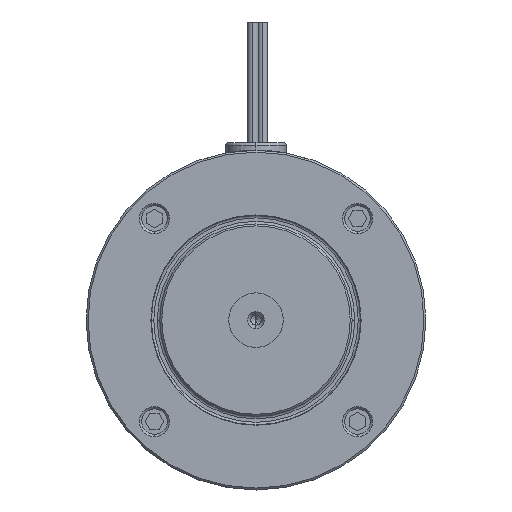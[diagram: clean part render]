
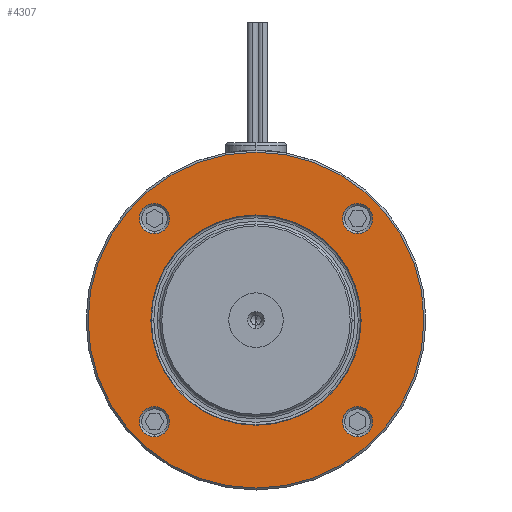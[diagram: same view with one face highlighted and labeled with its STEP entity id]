
A CAD part, left-side view. The second image highlights one B-rep face of the part: STEP entity #4307.
In plain terms, the highlighted planar face has unit normal (-1, 0, 0).
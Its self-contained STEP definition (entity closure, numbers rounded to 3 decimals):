
#24 = CIRCLE ( 'NONE', #248, 2.35 ) ;
#27 = DIRECTION ( 'NONE',  ( 0., -1., 0. ) ) ;
#28 = DIRECTION ( 'NONE',  ( 1., 0., 0. ) ) ;
#29 = CARTESIAN_POINT ( 'NONE',  ( -112., -15.839, -15.839 ) ) ;
#34 = DIRECTION ( 'NONE',  ( 0., 1., 0. ) ) ;
#35 = AXIS2_PLACEMENT_3D ( 'NONE', #29, #28, #27 ) ;
#38 = CIRCLE ( 'NONE', #35, 2.35 ) ;
#40 = FACE_BOUND ( 'NONE', #4295, .T. ) ;
#41 = AXIS2_PLACEMENT_3D ( 'NONE', #68, #67, #34 ) ;
#46 = FACE_BOUND ( 'NONE', #4293, .T. ) ;
#47 = FACE_OUTER_BOUND ( 'NONE', #4309, .T. ) ;
#48 = DIRECTION ( 'NONE',  ( 0., -1., 0. ) ) ;
#49 = DIRECTION ( 'NONE',  ( 1., 0., 0. ) ) ;
#50 = CARTESIAN_POINT ( 'NONE',  ( -112., 15.839, 15.839 ) ) ;
#51 = AXIS2_PLACEMENT_3D ( 'NONE', #50, #49, #48 ) ;
#52 = CIRCLE ( 'NONE', #51, 2.35 ) ;
#53 = PLANE ( 'NONE',  #41 ) ;
#54 = FACE_BOUND ( 'NONE', #4315, .T. ) ;
#55 = DIRECTION ( 'NONE',  ( 0., 1., 0. ) ) ;
#56 = FACE_BOUND ( 'NONE', #4291, .T. ) ;
#57 = FACE_BOUND ( 'NONE', #4282, .T. ) ;
#58 = DIRECTION ( 'NONE',  ( 1., 0., 0. ) ) ;
#63 = CARTESIAN_POINT ( 'NONE',  ( -112., 0., 0. ) ) ;
#64 = DIRECTION ( 'NONE',  ( 0., 1., 0. ) ) ;
#65 = DIRECTION ( 'NONE',  ( 1., 0., 0. ) ) ;
#66 = CARTESIAN_POINT ( 'NONE',  ( -112., 0., 0. ) ) ;
#67 = DIRECTION ( 'NONE',  ( -1., 0., 0. ) ) ;
#68 = CARTESIAN_POINT ( 'NONE',  ( -112., 16.4, 0. ) ) ;
#74 = CIRCLE ( 'NONE', #92, 26.2 ) ;
#81 = CIRCLE ( 'NONE', #87, 16.4 ) ;
#87 = AXIS2_PLACEMENT_3D ( 'NONE', #66, #65, #64 ) ;
#92 = AXIS2_PLACEMENT_3D ( 'NONE', #63, #58, #55 ) ;
#200 = DIRECTION ( 'NONE',  ( 0., -1., 0. ) ) ;
#201 = DIRECTION ( 'NONE',  ( 1., 0., 0. ) ) ;
#202 = CARTESIAN_POINT ( 'NONE',  ( -112., -15.839, 15.839 ) ) ;
#207 = AXIS2_PLACEMENT_3D ( 'NONE', #202, #201, #200 ) ;
#213 = CIRCLE ( 'NONE', #207, 2.35 ) ;
#232 = DIRECTION ( 'NONE',  ( 0., -1., 0. ) ) ;
#233 = DIRECTION ( 'NONE',  ( 1., 0., 0. ) ) ;
#238 = CARTESIAN_POINT ( 'NONE',  ( -112., 15.839, -15.839 ) ) ;
#248 = AXIS2_PLACEMENT_3D ( 'NONE', #238, #233, #232 ) ;
#2899 = DIRECTION ( 'NONE',  ( 0., -1., 0. ) ) ;
#2900 = DIRECTION ( 'NONE',  ( 1., 0., 0. ) ) ;
#2901 = AXIS2_PLACEMENT_3D ( 'NONE', #2939, #2900, #2899 ) ;
#2905 = AXIS2_PLACEMENT_3D ( 'NONE', #2910, #2912, #3006 ) ;
#2910 = CARTESIAN_POINT ( 'NONE',  ( -112., 15.839, 15.839 ) ) ;
#2912 = DIRECTION ( 'NONE',  ( 1., 0., 0. ) ) ;
#2930 = CIRCLE ( 'NONE', #2901, 2.35 ) ;
#2931 = CARTESIAN_POINT ( 'NONE',  ( -112., -15.839, -13.489 ) ) ;
#2939 = CARTESIAN_POINT ( 'NONE',  ( -112., 15.839, -15.839 ) ) ;
#2974 = CARTESIAN_POINT ( 'NONE',  ( -112., 15.839, -13.489 ) ) ;
#3006 = DIRECTION ( 'NONE',  ( 0., -1., 0. ) ) ;
#3009 = CIRCLE ( 'NONE', #2905, 2.35 ) ;
#3243 = CARTESIAN_POINT ( 'NONE',  ( -112., -15.839, -18.189 ) ) ;
#3245 = CIRCLE ( 'NONE', #3259, 2.35 ) ;
#3255 = CARTESIAN_POINT ( 'NONE',  ( -112., 15.839, 18.189 ) ) ;
#3256 = DIRECTION ( 'NONE',  ( 0., -1., 0. ) ) ;
#3257 = DIRECTION ( 'NONE',  ( 1., 0., 0. ) ) ;
#3258 = CARTESIAN_POINT ( 'NONE',  ( -112., -15.839, -15.839 ) ) ;
#3259 = AXIS2_PLACEMENT_3D ( 'NONE', #3258, #3257, #3256 ) ;
#3260 = CARTESIAN_POINT ( 'NONE',  ( -112., 15.839, 13.489 ) ) ;
#3460 = CARTESIAN_POINT ( 'NONE',  ( -112., -16.4, 0. ) ) ;
#3524 = CARTESIAN_POINT ( 'NONE',  ( -112., 15.839, -18.189 ) ) ;
#3926 = DIRECTION ( 'NONE',  ( 0., 1., 0. ) ) ;
#3932 = CARTESIAN_POINT ( 'NONE',  ( -112., -26.2, 0. ) ) ;
#3934 = DIRECTION ( 'NONE',  ( 1., 0., 0. ) ) ;
#3938 = CARTESIAN_POINT ( 'NONE',  ( -112., 0., 0. ) ) ;
#3942 = AXIS2_PLACEMENT_3D ( 'NONE', #3938, #3934, #3926 ) ;
#3949 = CARTESIAN_POINT ( 'NONE',  ( -112., 26.2, 0. ) ) ;
#3994 = CIRCLE ( 'NONE', #3942, 26.2 ) ;
#4010 = CARTESIAN_POINT ( 'NONE',  ( -112., 16.4, 0. ) ) ;
#4012 = DIRECTION ( 'NONE',  ( 0., 1., 0. ) ) ;
#4021 = DIRECTION ( 'NONE',  ( 1., 0., 0. ) ) ;
#4024 = AXIS2_PLACEMENT_3D ( 'NONE', #4060, #4021, #4012 ) ;
#4033 = CIRCLE ( 'NONE', #4024, 16.4 ) ;
#4060 = CARTESIAN_POINT ( 'NONE',  ( -112., 0., 0. ) ) ;
#4091 = CARTESIAN_POINT ( 'NONE',  ( -112., -15.839, 13.489 ) ) ;
#4156 = DIRECTION ( 'NONE',  ( 0., -1., 0. ) ) ;
#4157 = DIRECTION ( 'NONE',  ( 1., 0., 0. ) ) ;
#4158 = CARTESIAN_POINT ( 'NONE',  ( -112., -15.839, 15.839 ) ) ;
#4159 = AXIS2_PLACEMENT_3D ( 'NONE', #4158, #4157, #4156 ) ;
#4160 = CIRCLE ( 'NONE', #4159, 2.35 ) ;
#4177 = CARTESIAN_POINT ( 'NONE',  ( -112., -15.839, 18.189 ) ) ;
#4282 = EDGE_LOOP ( 'NONE', ( #4432, #4284 ) ) ;
#4284 = ORIENTED_EDGE ( 'NONE', *, *, #4285, .T. ) ;
#4285 = EDGE_CURVE ( 'NONE', #6039, #6133, #81, .T. ) ;
#4286 = ORIENTED_EDGE ( 'NONE', *, *, #4292, .F. ) ;
#4289 = ORIENTED_EDGE ( 'NONE', *, *, #6154, .F. ) ;
#4291 = EDGE_LOOP ( 'NONE', ( #4298, #4297 ) ) ;
#4292 = EDGE_CURVE ( 'NONE', #6156, #6155, #74, .T. ) ;
#4293 = EDGE_LOOP ( 'NONE', ( #4294, #4311 ) ) ;
#4294 = ORIENTED_EDGE ( 'NONE', *, *, #5838, .T. ) ;
#4295 = EDGE_LOOP ( 'NONE', ( #4302, #4296 ) ) ;
#4296 = ORIENTED_EDGE ( 'NONE', *, *, #4330, .T. ) ;
#4297 = ORIENTED_EDGE ( 'NONE', *, *, #4299, .T. ) ;
#4298 = ORIENTED_EDGE ( 'NONE', *, *, #5799, .T. ) ;
#4299 = EDGE_CURVE ( 'NONE', #5849, #5848, #52, .T. ) ;
#4300 = ORIENTED_EDGE ( 'NONE', *, *, #4350, .T. ) ;
#4302 = ORIENTED_EDGE ( 'NONE', *, *, #5827, .T. ) ;
#4303 = ORIENTED_EDGE ( 'NONE', *, *, #6246, .T. ) ;
#4307 = ADVANCED_FACE ( 'NONE', ( #54, #46, #40, #56, #47, #57 ), #53, .T. ) ;
#4308 = EDGE_CURVE ( 'NONE', #5840, #5824, #38, .T. ) ;
#4309 = EDGE_LOOP ( 'NONE', ( #4289, #4286 ) ) ;
#4311 = ORIENTED_EDGE ( 'NONE', *, *, #4308, .T. ) ;
#4315 = EDGE_LOOP ( 'NONE', ( #4303, #4300 ) ) ;
#4330 = EDGE_CURVE ( 'NONE', #5967, #5811, #24, .T. ) ;
#4350 = EDGE_CURVE ( 'NONE', #6107, #6245, #213, .T. ) ;
#4432 = ORIENTED_EDGE ( 'NONE', *, *, #6130, .T. ) ;
#5799 = EDGE_CURVE ( 'NONE', #5848, #5849, #3009, .T. ) ;
#5811 = VERTEX_POINT ( 'NONE', #2974 ) ;
#5824 = VERTEX_POINT ( 'NONE', #2931 ) ;
#5827 = EDGE_CURVE ( 'NONE', #5811, #5967, #2930, .T. ) ;
#5838 = EDGE_CURVE ( 'NONE', #5824, #5840, #3245, .T. ) ;
#5840 = VERTEX_POINT ( 'NONE', #3243 ) ;
#5848 = VERTEX_POINT ( 'NONE', #3255 ) ;
#5849 = VERTEX_POINT ( 'NONE', #3260 ) ;
#5967 = VERTEX_POINT ( 'NONE', #3524 ) ;
#6039 = VERTEX_POINT ( 'NONE', #3460 ) ;
#6107 = VERTEX_POINT ( 'NONE', #4091 ) ;
#6130 = EDGE_CURVE ( 'NONE', #6133, #6039, #4033, .T. ) ;
#6133 = VERTEX_POINT ( 'NONE', #4010 ) ;
#6154 = EDGE_CURVE ( 'NONE', #6155, #6156, #3994, .T. ) ;
#6155 = VERTEX_POINT ( 'NONE', #3932 ) ;
#6156 = VERTEX_POINT ( 'NONE', #3949 ) ;
#6245 = VERTEX_POINT ( 'NONE', #4177 ) ;
#6246 = EDGE_CURVE ( 'NONE', #6245, #6107, #4160, .T. ) ;
